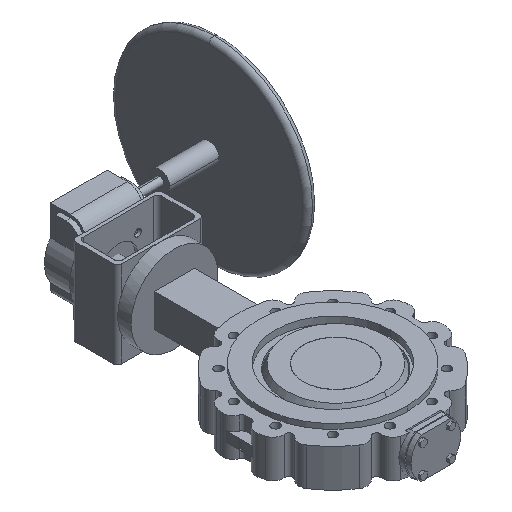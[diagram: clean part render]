
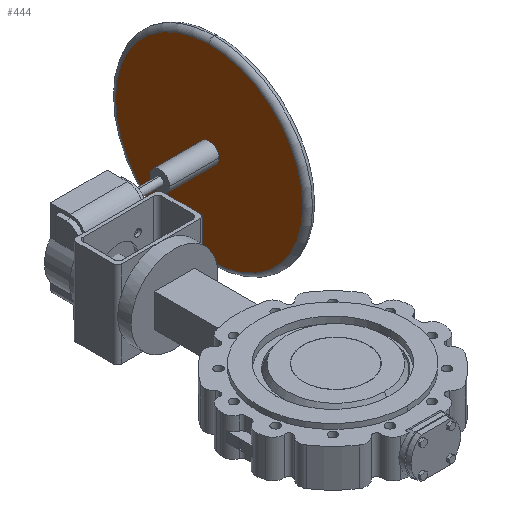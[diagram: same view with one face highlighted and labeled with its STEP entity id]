
A CAD part, isometric view. The second image highlights one B-rep face of the part: STEP entity #444.
In plain terms, the highlighted planar face has unit normal (-1, 0, 0).
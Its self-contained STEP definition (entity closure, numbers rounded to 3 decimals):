
#444 = ADVANCED_FACE( '', ( #1161, #1162 ), #1163, .T. );
#1161 = FACE_OUTER_BOUND( '', #1885, .T. );
#1162 = FACE_BOUND( '', #1886, .T. );
#1163 = PLANE( '', #1887 );
#1885 = EDGE_LOOP( '', ( #4615, #4616, #4617 ) );
#1886 = EDGE_LOOP( '', ( #4618, #4619 ) );
#1887 = AXIS2_PLACEMENT_3D( '', #4620, #4621, #4622 );
#4615 = ORIENTED_EDGE( '', *, *, #5400, .F. );
#4616 = ORIENTED_EDGE( '', *, *, #5399, .F. );
#4617 = ORIENTED_EDGE( '', *, *, #5396, .F. );
#4618 = ORIENTED_EDGE( '', *, *, #5412, .T. );
#4619 = ORIENTED_EDGE( '', *, *, #5553, .T. );
#4620 = CARTESIAN_POINT( '', ( 280., 725.25, 86. ) );
#4621 = DIRECTION( '', ( -1., 0., 0. ) );
#4622 = DIRECTION( '', ( 0., -1., 0. ) );
#5396 = EDGE_CURVE( '', #6772, #6774, #6775, .T. );
#5399 = EDGE_CURVE( '', #6774, #6778, #6779, .T. );
#5400 = EDGE_CURVE( '', #6778, #6772, #6780, .T. );
#5412 = EDGE_CURVE( '', #6797, #6801, #6803, .T. );
#5553 = EDGE_CURVE( '', #6801, #6797, #7037, .T. );
#6772 = VERTEX_POINT( '', #9356 );
#6774 = VERTEX_POINT( '', #9358 );
#6775 = CIRCLE( '', #9359, 237.5 );
#6778 = VERTEX_POINT( '', #9362 );
#6779 = CIRCLE( '', #9363, 237.5 );
#6780 = CIRCLE( '', #9364, 237.5 );
#6797 = VERTEX_POINT( '', #9383 );
#6801 = VERTEX_POINT( '', #9388 );
#6803 = CIRCLE( '', #9391, 25. );
#7037 = CIRCLE( '', #9760, 25. );
#9356 = CARTESIAN_POINT( '', ( 280., 594., 323.5 ) );
#9358 = CARTESIAN_POINT( '', ( 280., 594., -151.5 ) );
#9359 = AXIS2_PLACEMENT_3D( '', #11152, #11153, #11154 );
#9362 = CARTESIAN_POINT( '', ( 280., 831.5, 86. ) );
#9363 = AXIS2_PLACEMENT_3D( '', #11161, #11162, #11163 );
#9364 = AXIS2_PLACEMENT_3D( '', #11164, #11165, #11166 );
#9383 = CARTESIAN_POINT( '', ( 280., 619., 86. ) );
#9388 = CARTESIAN_POINT( '', ( 280., 569., 86. ) );
#9391 = AXIS2_PLACEMENT_3D( '', #11192, #11193, #11194 );
#9760 = AXIS2_PLACEMENT_3D( '', #11408, #11409, #11410 );
#11152 = CARTESIAN_POINT( '', ( 280., 594., 86. ) );
#11153 = DIRECTION( '', ( 1., 0., 0. ) );
#11154 = DIRECTION( '', ( 0., 1., 0. ) );
#11161 = CARTESIAN_POINT( '', ( 280., 594., 86. ) );
#11162 = DIRECTION( '', ( 1., 0., 0. ) );
#11163 = DIRECTION( '', ( 0., 1., 0. ) );
#11164 = CARTESIAN_POINT( '', ( 280., 594., 86. ) );
#11165 = DIRECTION( '', ( 1., 0., 0. ) );
#11166 = DIRECTION( '', ( 0., 1., 0. ) );
#11192 = CARTESIAN_POINT( '', ( 280., 594., 86. ) );
#11193 = DIRECTION( '', ( 1., 0., 0. ) );
#11194 = DIRECTION( '', ( 0., 1., 0. ) );
#11408 = CARTESIAN_POINT( '', ( 280., 594., 86. ) );
#11409 = DIRECTION( '', ( 1., 0., 0. ) );
#11410 = DIRECTION( '', ( 0., 1., 0. ) );
